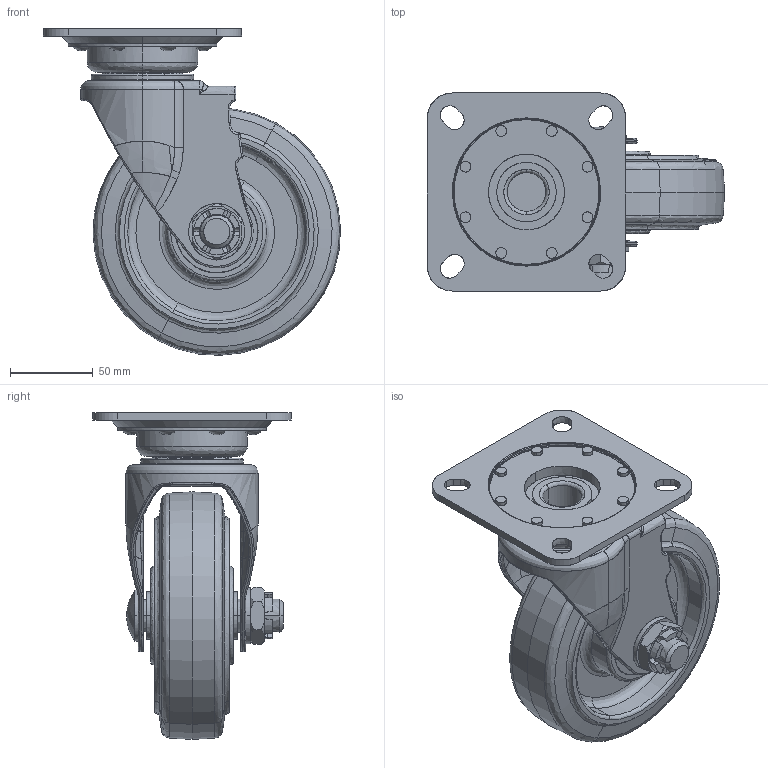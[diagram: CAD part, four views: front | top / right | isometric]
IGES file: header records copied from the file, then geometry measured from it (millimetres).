
Start section: START RECORD GO HERE.
Global section: file name: TUS-150AWJ.igs; native system: DASSAULT SYSTEMES CATIA Version 5-6 Release 2012 - www.3ds.com; preprocessor: V5-6R2012_5.22.4.28.09-04-2013.16.24; author: toshihiro.oyama; organization: ICC; date: 20140714.092317; units: millimetre
Bounding box: 179.98 x 120 x 197.98 mm (x, y, z)
Surface area: 270960.5 mm2 (no closed solid volume)
Topology: 0 solids, 0 shells, 940 faces, 4623 edges, 4437 vertices
Faces by surface type: revolution 424, plane 269, bspline 241, extrusion 6
